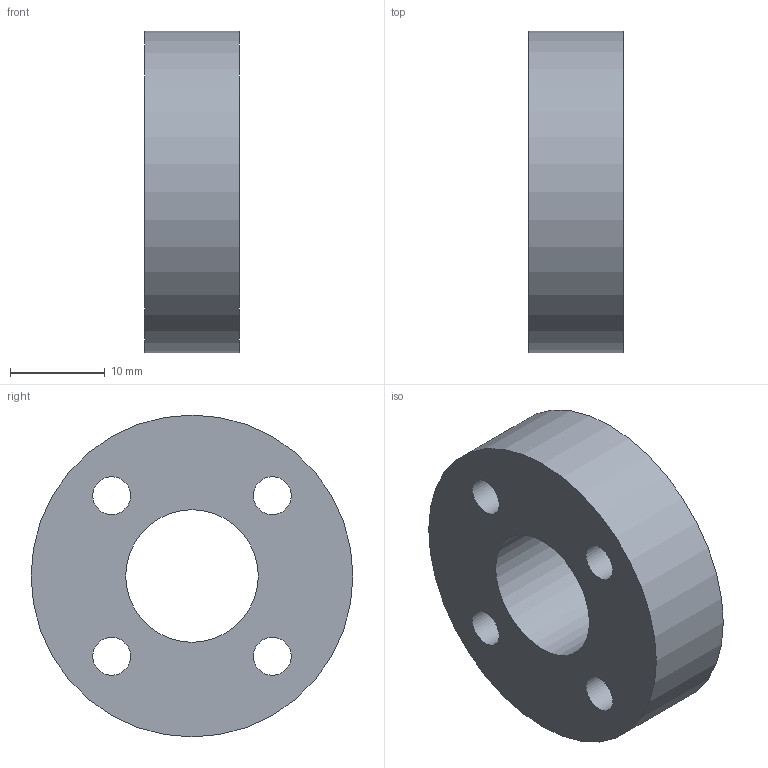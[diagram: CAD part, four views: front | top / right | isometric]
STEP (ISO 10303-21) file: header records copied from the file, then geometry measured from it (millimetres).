
FILE_DESCRIPTION (( 'STEP AP214' ), '1' );
FILE_NAME ('NO.2-BSN-14儅僌僱僢僩.STEP', '2018-09-05T05:25:17', ( '' ), ( '' ), 'SwSTEP 2.0', 'SolidWorks 2015', '' );
FILE_SCHEMA (( 'AUTOMOTIVE_DESIGN' ));
Length unit declared in the file: millimetre
Products named in the file (1): NO.2-BSN-14儅僌僱僢僩
Bounding box: 10 x 34 x 34 mm (x, y, z)
Volume: 7037.2 mm3; surface area: 3418.1 mm2
Topology: 1 solids, 1 shells, 8 faces, 18 edges, 12 vertices
Faces by surface type: cylinder 6, plane 2
Full cylindrical faces by diameter (mm): 4 x4, 14 x1, 34 x1
Entity records: 258 total; most frequent: DIRECTION 42, CARTESIAN_POINT 33, EDGE_LOOP 24, ORIENTED_EDGE 24, AXIS2_PLACEMENT_3D 21, FACE_OUTER_BOUND 14, CIRCLE 12, VERTEX_POINT 12
